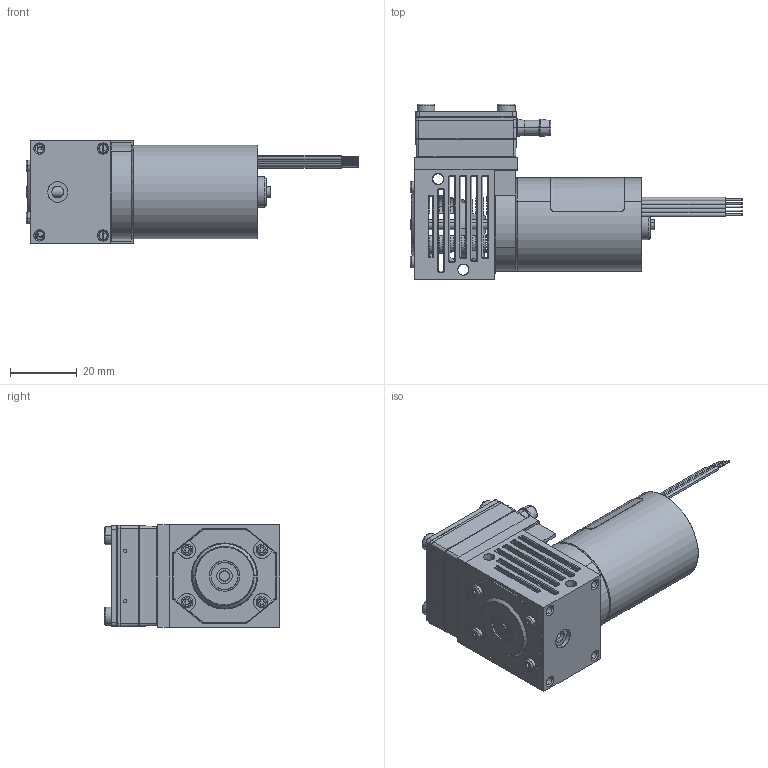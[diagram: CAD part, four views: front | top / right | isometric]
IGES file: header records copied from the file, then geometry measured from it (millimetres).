
Start section: SolidWorks IGES file using analytic representation for surfaces
Global section: file name: C:\SWPDM\GDT\Germany\600 User Files\Michael Buchberger Files\CAD_Model Homepage\6313 BLDC Standard Hose Barbs\6313 BLDC Standard Hose Barbs.IGS; native system: SolidWorks 2020; preprocessor: SolidWorks 2020; author: MXB6966; date: 220124.134051; units: millimetre
Bounding box: 99.25 x 52.45 x 30.7 mm (x, y, z)
Surface area: 21316.2 mm2 (no closed solid volume)
Topology: 0 solids, 0 shells, 805 faces, 12376 edges, 12366 vertices
Faces by surface type: revolution 435, bspline 370
